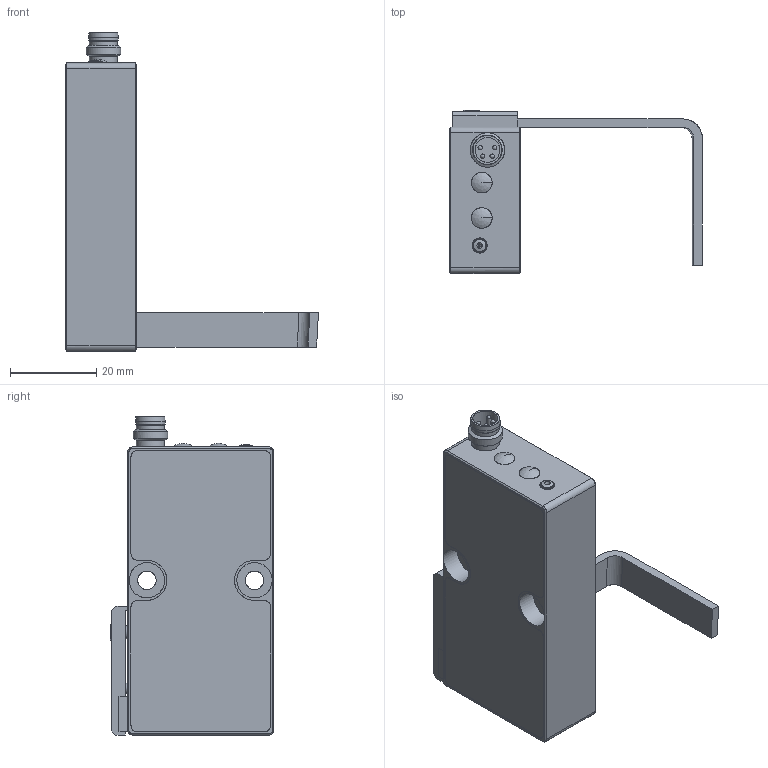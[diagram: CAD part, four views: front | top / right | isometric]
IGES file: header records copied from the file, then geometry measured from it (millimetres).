
Start section: C
Global section: file name: ZADM 034P240.6901.igs; native system: By Siemens PLM Incorporated; preprocessor: XPlus GENERIC/IGES 23.0.61; author: Author; organization: Title; date: 20220727.152549; units: millimetre
Bounding box: 58.75 x 38.05 x 74 mm (x, y, z)
Surface area: 12143.5 mm2 (no closed solid volume)
Topology: 0 solids, 0 shells, 158 faces, 839 edges, 826 vertices
Faces by surface type: bspline 158
